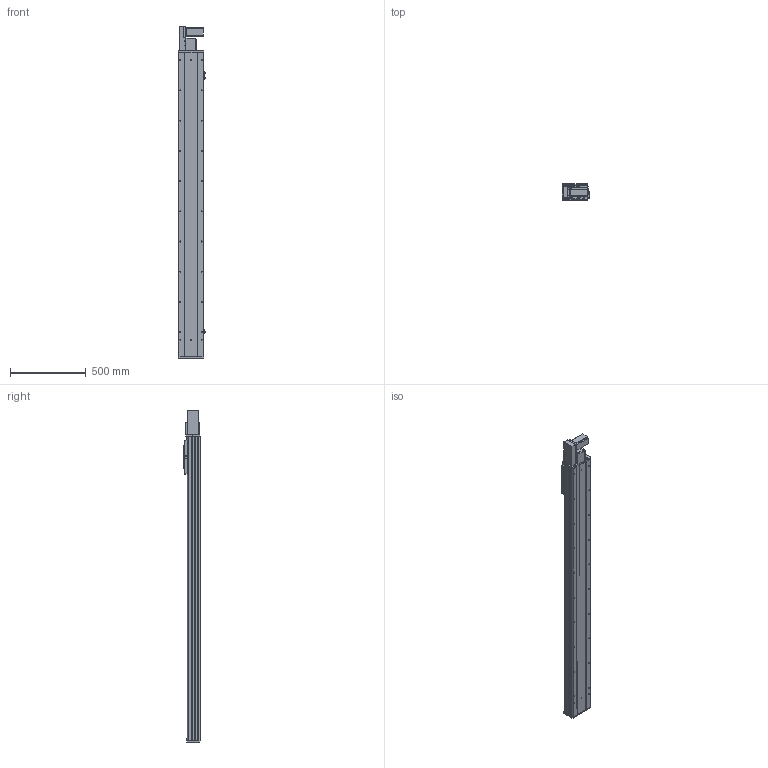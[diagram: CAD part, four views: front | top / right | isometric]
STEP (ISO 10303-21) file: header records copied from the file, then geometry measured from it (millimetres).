
FILE_DESCRIPTION (( 'STEP AP203' ), '1' );
FILE_NAME ('Y170CB-D105-S1700-BL-P400W.STEP', '2020-02-20T01:31:40', ( '微软用户' ), ( '微软中国' ), 'SwSTEP 2.0', 'SolidWorks 2017', '' );
FILE_SCHEMA (( 'CONFIG_CONTROL_DESIGN' ));
Length unit declared in the file: millimetre
Products named in the file (18): 70CB-耜裔啣-; 70CB-詩湍--; 70C--詩湍揤踡え-; Y100-135俋离換覜ん--; B-源倛裔啣; 70CB--耜裔; Y170CB-陔俋离換覜結え---; 17B-耜蚾蟀諉啣----; 70C-雄赽釱-奻-; 70B喘謫眊----; 0B-萇儂楊擘啣; Y1埴倛裔; san松下电机400不带刹车----; Y170CB-D105-S1700-BL-P400W; Y70俋欶BR----; 70CB-掛极-; --70CB --喘謫眊楊擘啣-; 0C--雄赽釱俋欶-170
Assembly tree (21 placements, depth 2):
  Y170CB-D105-S1700-BL-P400W
    B-源倛裔啣
    17B-耜蚾蟀諉啣----
    0B-萇儂楊擘啣
    san松下电机400不带刹车----
    Y70俋欶BR----
    70CB-掛极-
    --70CB --喘謫眊楊擘啣-
    70CB-耜裔啣-  x2
    70C--詩湍揤踡え-  x2
    70CB--耜裔
    70C-雄赽釱-奻-
    0C--雄赽釱俋欶-170
    70CB-詩湍--
    Y100-135俋离換覜ん--  x3
    Y170CB-陔俋离換覜結え---
    70B喘謫眊----
    Y1埴倛裔
Bounding box: 183.5 x 107 x 2197 mm (x, y, z)
Volume: 9291932.5 mm3; surface area: 3333021.4 mm2
Topology: 21 solids, 21 shells, 1039 faces, 2789 edges, 1850 vertices
Faces by surface type: cylinder 551, plane 464, cone 24
Entity records: 33196 total; most frequent: CARTESIAN_POINT 6096, DIRECTION 5398, ORIENTED_EDGE 5060, EDGE_CURVE 2530, AXIS2_PLACEMENT_3D 1984, VERTEX_POINT 1680, LINE 1430, VECTOR 1430
